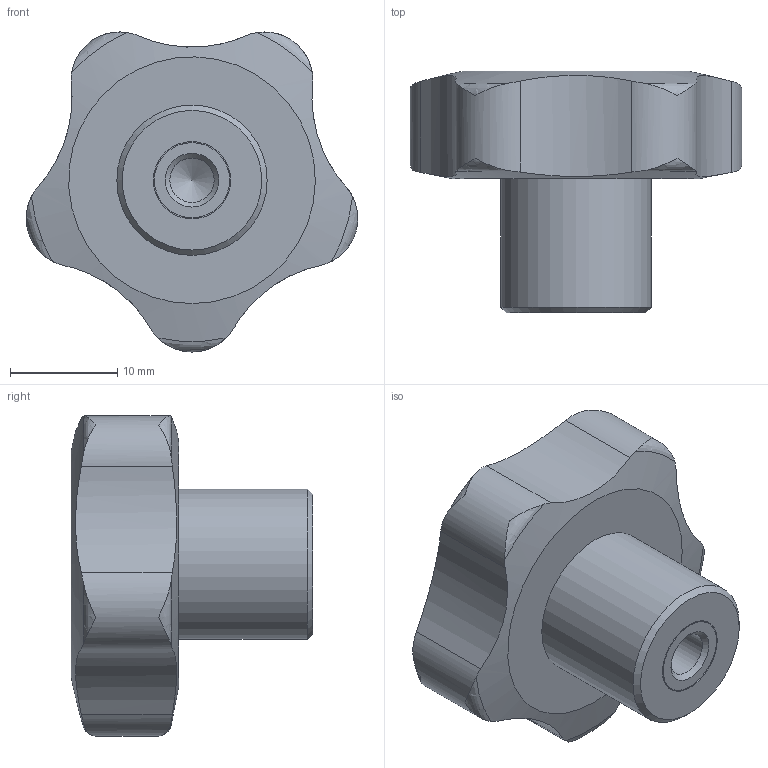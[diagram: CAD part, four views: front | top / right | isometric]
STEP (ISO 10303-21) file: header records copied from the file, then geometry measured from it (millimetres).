
FILE_DESCRIPTION( ( 'STEP AP203' ), '1' );
FILE_NAME( 'C:/Temp/Ganter_Step_05_03_2020/data/2_2/gn_5337_4/gn_5337_4_b/Star knob GN 5337.4-32-M5.stp', '2020-03-05T12:09:32', ( 'License CC BY-ND 4.0' ), ( 'CADENAS' ), ' ', 'PARTsolutions', ' ' );
FILE_SCHEMA( ( 'CONFIG_CONTROL_DESIGN' ) );
Length unit declared in the file: millimetre
Products named in the file (1): _Star knob GN 5337.4-32-M5
Bounding box: 30.87 x 22.5 x 29.8 mm (x, y, z)
Volume: 7652.5 mm3; surface area: 2791.5 mm2
Topology: 1 solids, 1 shells, 34 faces, 92 edges, 62 vertices
Faces by surface type: cylinder 14, torus 10, cone 4, plane 4, bspline 1, sphere 1
Full cylindrical faces by diameter (mm): 4.134 x1, 7 x1, 7.2 x1, 14 x1
Entity records: 1441 total; most frequent: CARTESIAN_POINT 675, ORIENTED_EDGE 154, DIRECTION 122, EDGE_CURVE 77, VERTEX_POINT 59, AXIS2_PLACEMENT_3D 56, EDGE_LOOP 46, B_SPLINE_CURVE_WITH_KNOTS 45
